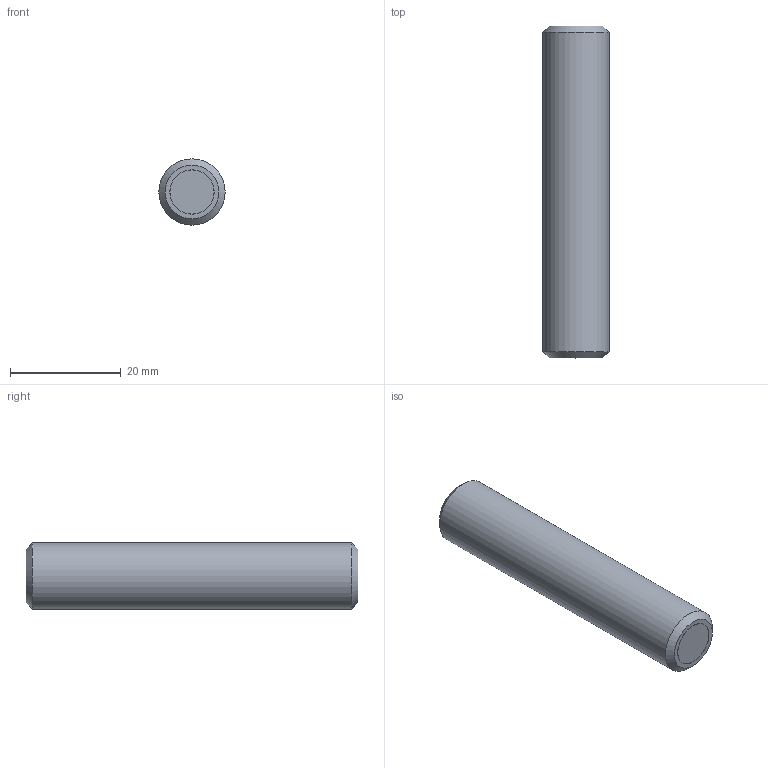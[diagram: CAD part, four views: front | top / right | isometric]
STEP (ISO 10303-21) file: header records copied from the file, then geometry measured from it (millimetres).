
FILE_DESCRIPTION(/* description */ ('STEP AP214'),/* implementation_level */ '2;1');
FILE_NAME(/* name */ 'Grub screw with retaining magnet GN 913.6-M12-60-ND',/* time_stamp */ '2023-09-22T15:51:00+02:00',/* author */ ('License CC BY-ND 4.0'),/* organization */ ('CADENAS'),/* preprocessor_version */ 'ST-DEVELOPER v19.3',/* originating_system */ 'PARTsolutions',/* authorisation */ ' ');
FILE_SCHEMA (('AUTOMOTIVE_DESIGN {1 0 10303 214 3 1 1}'));
Length unit declared in the file: millimetre
Products named in the file (1): Grub screw with retaining magnet GN 913.6-M12-60-ND
Bounding box: 12 x 60 x 12 mm (x, y, z)
Volume: 6544.2 mm3; surface area: 2558.4 mm2
Topology: 1 solids, 1 shells, 22 faces, 45 edges, 27 vertices
Faces by surface type: plane 16, cone 3, cylinder 3
Full cylindrical faces by diameter (mm): 7.96 x1, 8 x1, 12 x1
Entity records: 566 total; most frequent: DIRECTION 98, CARTESIAN_POINT 88, ORIENTED_EDGE 76, EDGE_CURVE 38, AXIS2_PLACEMENT_3D 37, FACE_BOUND 31, EDGE_LOOP 30, VERTEX_POINT 27
